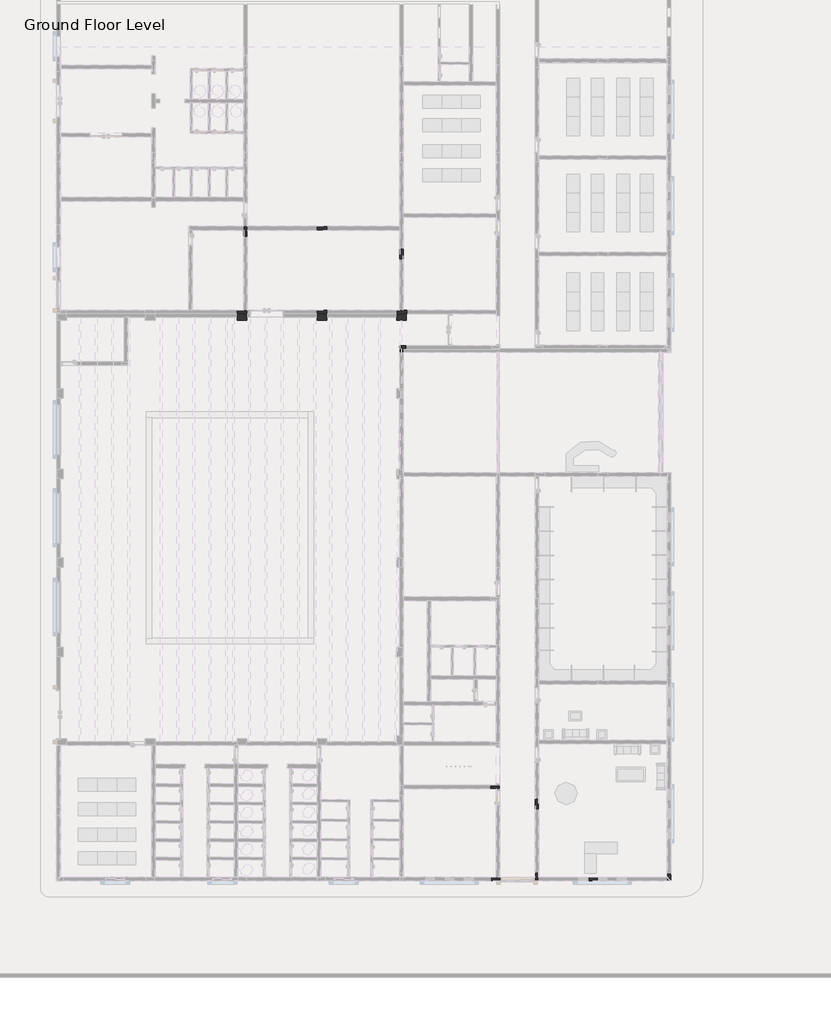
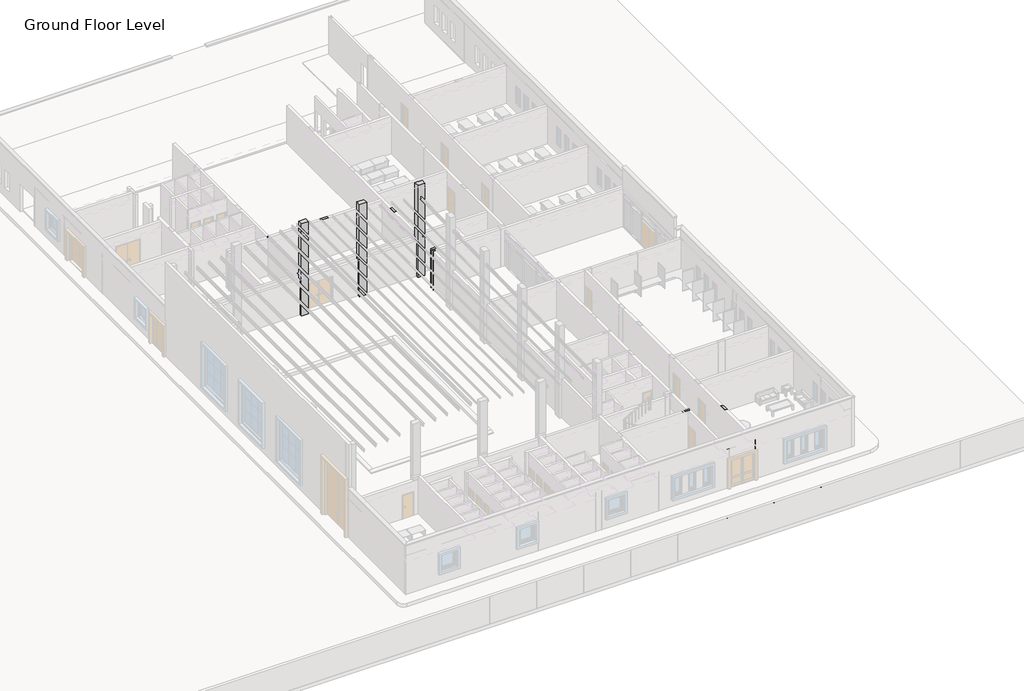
# One storey, part 15 of 23: 27 beams, 21 columns, 13 slabs.
"""IFC4 building model written with IfcOpenShell, lengths in millimetres."""

import ifcopenshell
import ifcopenshell.guid

model = None  # the IFC model being written
_history = None  # IfcOwnerHistory: only IFC2X3 demands one
_inside = {}  # id of a spatial element -> (the spatial element, [elements in it])
_under = {}  # id of a project, library or spatial element -> (it, [spatial elements below it])
_declared = {}  # id of a project -> (the project, [libraries it declares])
_typed = {}  # id of a type object -> (the type object, [elements of that type])
_made_of = {}  # id of a material, layer set ... -> (it, [elements and type objects made of it])


def new_model(schema):
    """Start an empty IFC model of exactly this schema.

    Asked for "IFC4X3", IfcOpenShell would pick the latest addendum, in which some entities
    have other attributes; the version numbers below select the first issue.
    IFC2X3 requires an IfcOwnerHistory on every rooted entity: one is made here for all.
    """
    global model, _history
    if schema == "IFC4X3":
        model = ifcopenshell.file(schema_version=(4, 3, 0, 0))
    else:
        model = ifcopenshell.file(schema=schema)
    _inside.clear()
    _under.clear()
    _declared.clear()
    _typed.clear()
    _made_of.clear()
    _history = None
    if model.schema == "IFC2X3":
        org = make("IfcOrganization", Name="unknown")
        user = make(
            "IfcPersonAndOrganization",
            ThePerson=make("IfcPerson", FamilyName="unknown"),
            TheOrganization=org,
        )
        app = make(
            "IfcApplication",
            ApplicationDeveloper=org,
            Version="unknown",
            ApplicationFullName="unknown",
            ApplicationIdentifier="unknown",
        )
        _history = make(
            "IfcOwnerHistory",
            OwningUser=user,
            OwningApplication=app,
            ChangeAction="ADDED",
            CreationDate=0,
        )
    return model


def make(cls, **values):
    """One entity of the class cls with the attributes given. An attribute that is None is left unset."""
    return model.create_entity(
        cls, **{name: value for name, value in values.items() if value is not None}
    )


def rooted(cls, **values):
    """An entity with a GlobalId (a new one), such as an element, a storey or a relation."""
    return make(cls, GlobalId=ifcopenshell.guid.new(), OwnerHistory=_history, **values)


def si_unit(unit_type, name, prefix=None):
    """IfcSIUnit, for example si_unit("LENGTHUNIT", "METRE", prefix="MILLI")."""
    return make("IfcSIUnit", UnitType=unit_type, Prefix=prefix, Name=name)


def assignment(units):
    """IfcUnitAssignment: the units of a project."""
    return None if units is None else make("IfcUnitAssignment", Units=units)


def point(xyz):
    """IfcCartesianPoint."""
    return None if xyz is None else make("IfcCartesianPoint", Coordinates=xyz)


def direction(xyz):
    """IfcDirection."""
    return None if xyz is None else make("IfcDirection", DirectionRatios=xyz)


def frame(location, z_axis=None, x_axis=None):
    """IfcAxis2Placement3D, a coordinate frame: its origin and axes. An axis left out is left unset."""
    return make(
        "IfcAxis2Placement3D",
        Location=point(location),
        Axis=direction(z_axis),
        RefDirection=direction(x_axis),
    )


def origin():
    """The frame at (0, 0, 0) with its axes left unset."""
    return frame((0.0, 0.0, 0.0))


def place(relative_to, where):
    """IfcLocalPlacement: puts the frame where relative to a parent placement (None: the world)."""
    return make(
        "IfcLocalPlacement", PlacementRelTo=relative_to, RelativePlacement=where
    )


def context(
    kind, dimensions, precision=None, world=None, true_north=None, identifier=None
):
    """IfcGeometricRepresentationContext, for example the 3D "Model" context."""
    return make(
        "IfcGeometricRepresentationContext",
        ContextIdentifier=identifier,
        ContextType=kind,
        CoordinateSpaceDimension=dimensions,
        Precision=precision,
        WorldCoordinateSystem=world,
        TrueNorth=true_north,
    )


def project(units=None, contexts=None):
    """IfcProject with its units and contexts."""
    return rooted(
        "IfcProject",
        Name="project",
        RepresentationContexts=contexts,
        UnitsInContext=assignment(units),
    )


def spatial(cls, under=None, at=None, **own):
    """A site, building, storey or space (cls), placed at a placement, below another one or the project."""
    s = rooted(cls, ObjectPlacement=at, **own)
    if under is not None:
        _under.setdefault(under.id(), (under, []))[1].append(s)
    return s


def polyline(points):
    """IfcPolyline through the points."""
    return make("IfcPolyline", Points=[point(p) for p in points])


def outline(outer, holes=None, kind="AREA"):
    """IfcArbitraryClosedProfileDef: a profile drawn as a closed curve; with holes, ...WithVoids."""
    if holes is None:
        return make("IfcArbitraryClosedProfileDef", ProfileType=kind, OuterCurve=outer)
    return make(
        "IfcArbitraryProfileDefWithVoids",
        ProfileType=kind,
        OuterCurve=outer,
        InnerCurves=holes,
    )


def extrude(swept, where, along, depth):
    """IfcExtrudedAreaSolid: the profile swept, set in the frame where, extruded along a direction by depth."""
    return make(
        "IfcExtrudedAreaSolid",
        SweptArea=swept,
        Position=where,
        ExtrudedDirection=direction(along),
        Depth=depth,
    )


def faces_of(points, faces, orient=None, outer=None):
    """IfcFace entities. A face is a list of loops; a loop is a list of indices into points, from 0.

    orient and outer hold one flag for each loop. By default every Orientation is true, the
    first loop of a face is its IfcFaceOuterBound and the others are IfcFaceBound.
    """
    made = []
    for i, loops in enumerate(faces):
        bounds = []
        for j, loop in enumerate(loops):
            is_outer = j == 0 if outer is None else outer[i][j]
            bounds.append(
                make(
                    "IfcFaceOuterBound" if is_outer else "IfcFaceBound",
                    Bound=make("IfcPolyLoop", Polygon=[points[k] for k in loop]),
                    Orientation=True if orient is None else orient[i][j],
                )
            )
        made.append(make("IfcFace", Bounds=bounds))
    return made


def faceted_brep(points, faces, orient=None, outer=None, voids=None):
    """IfcFacetedBrep: a solid bounded by flat faces; with voids (closed shells), ...WithVoids."""
    shared = [point(p) for p in points]
    hull = make("IfcClosedShell", CfsFaces=faces_of(shared, faces, orient, outer))
    if voids is None:
        return make("IfcFacetedBrep", Outer=hull)
    return make(
        "IfcFacetedBrepWithVoids",
        Outer=hull,
        Voids=[
            make(cls, CfsFaces=faces_of(shared, fs, o, b)) for cls, fs, o, b in voids
        ],
    )


def shape(context_of_items, identifier, shape_type, items):
    """IfcShapeRepresentation: the items that make up one representation, for example the "Body"."""
    return make(
        "IfcShapeRepresentation",
        ContextOfItems=context_of_items,
        RepresentationIdentifier=identifier,
        RepresentationType=shape_type,
        Items=items,
    )


def source(mapping_origin, context_of_items, identifier, shape_type, items):
    """IfcRepresentationMap: a shape defined once, which mapped items show again and again."""
    return make(
        "IfcRepresentationMap",
        MappingOrigin=mapping_origin,
        MappedRepresentation=shape(context_of_items, identifier, shape_type, items),
    )


def transform(
    local_origin,
    x_axis=None,
    y_axis=None,
    z_axis=None,
    scale=None,
    scale2=None,
    scale3=None,
    uniform=True,
):
    """IfcCartesianTransformationOperator3D, or its non-uniform kind. x_axis, y_axis, z_axis: its Axis1, 2, 3."""
    if uniform:
        return make(
            "IfcCartesianTransformationOperator3D",
            Axis1=direction(x_axis),
            Axis2=direction(y_axis),
            LocalOrigin=point(local_origin),
            Scale=scale,
            Axis3=direction(z_axis),
        )
    return make(
        "IfcCartesianTransformationOperator3DnonUniform",
        Axis1=direction(x_axis),
        Axis2=direction(y_axis),
        LocalOrigin=point(local_origin),
        Scale=scale,
        Axis3=direction(z_axis),
        Scale2=scale2,
        Scale3=scale3,
    )


def mapped(mapping_source, mapping_target):
    """IfcMappedItem: shows the shape of a source again, moved by a transform."""
    return make(
        "IfcMappedItem", MappingSource=mapping_source, MappingTarget=mapping_target
    )


def made_of(thing, what):
    """Note that an element or type object is made of a material, layer set ...; save() writes the relation."""
    if what is not None:
        _made_of.setdefault(what.id(), (what, []))[1].append(thing)
    return thing


def element(
    cls,
    number,
    at=None,
    inside=None,
    cuts=None,
    type_object=None,
    material=None,
    context=None,
    identifier="Body",
    shape_type=None,
    held_by="IfcProductDefinitionShape",
    body=None,
    shapes=None,
    **own,
):
    """One element of the class cls, such as IfcWall. Its Tag is "e" and its number.

    at: its placement. inside: the storey or other place that contains it. cuts: it is an
    opening in that element (IfcRelVoidsElement). A single representation is given by context,
    identifier, shape_type and body (its items); several are given by shapes. held_by: the class
    of the entity that holds the representations. save() writes the other relations.
    """
    e = rooted(cls, Tag="e%d" % number, ObjectPlacement=at, **own)
    if body is not None:
        shapes = [shape(context, identifier, shape_type, body)]
    if shapes is not None:
        e.Representation = make(held_by, Representations=shapes)
    if inside is not None:
        _inside.setdefault(inside.id(), (inside, []))[1].append(e)
    if cuts is not None:
        rooted(
            "IfcRelVoidsElement", RelatingBuildingElement=cuts, RelatedOpeningElement=e
        )
    if type_object is not None:
        _typed.setdefault(type_object.id(), (type_object, []))[1].append(e)
    return made_of(e, material)


def aggregate(whole, parts):
    """IfcRelAggregates: a whole, such as a stair, and the parts it consists of."""
    return rooted("IfcRelAggregates", RelatingObject=whole, RelatedObjects=parts)


def save(model, path):
    """Write the relations noted so far, then the file.

    IfcRelAggregates (storeys below a building ...), IfcRelContainedInSpatialStructure (elements
    in a storey), IfcRelDefinesByType, IfcRelAssociatesMaterial and IfcRelDeclares: one each for
    every whole, place, type object, material and project.
    """
    for whole, parts in _under.values():
        aggregate(whole, parts)
    for where, things in _inside.values():
        rooted(
            "IfcRelContainedInSpatialStructure",
            RelatedElements=things,
            RelatingStructure=where,
        )
    for kind, things in _typed.values():
        rooted("IfcRelDefinesByType", RelatedObjects=things, RelatingType=kind)
    for what, things in _made_of.values():
        rooted("IfcRelAssociatesMaterial", RelatedObjects=things, RelatingMaterial=what)
    for by, libraries in _declared.values():
        rooted("IfcRelDeclares", RelatingContext=by, RelatedDefinitions=libraries)
    model.write(path)


def concrete_rectangular_c_9a02abf1(model_context):
    return source(origin(), model_context, "Body", "SweptSolid", [
        extrude(outline(polyline([(100.0, -100.0), (-100.0, -100.0), (-100.0, 100.0), (100.0, 100.0), (100.0, -100.0)])), frame((0.0, 0.0, 600.0), z_axis=(0.0, 0.0, 1.0), x_axis=(1.0, 0.0, 0.0)), (0.0, 0.0, 1.0), 2450.0),
    ])


model = new_model("IFC4")

# Units and contexts
model_context = context("Model", 3, world=origin())
ifc_project = project(units=[si_unit("LENGTHUNIT", "METRE", prefix="MILLI")], contexts=[model_context])

# Site, building, storey
site = spatial("IfcSite", under=ifc_project)
building = spatial("IfcBuilding", under=site)
storey = spatial("IfcBuildingStorey", under=building, Name="Ground Floor Level", Elevation=900.0)

# Beams
placement = place(None, origin())
element("IfcBeam", 1, ObjectType="Concrete - Rectangular Beam : GB1", at=placement, inside=storey, context=model_context, shape_type="Brep", body=[
    faceted_brep([(-767.2327605, -6574.7846466, 500.0), (-767.2327605, -8354.7846466, 500.0), (-767.2327605, -8354.7846466, 600.0), (-767.2327605, -6574.7846466, 600.0), (-567.2327605, -6574.7846466, 500.0), (-567.2327605, -8134.7846466, 500.0), (-747.2327605, -8134.7846466, 500.0), (-747.2327605, -8334.7846466, 500.0), (-567.2327605, -8334.7846466, 500.0), (-567.2327605, -8354.7846466, 500.0), (-567.2327605, -6574.7846466, 600.0), (-567.2327605, -8134.7846466, 600.0), (-567.2327605, -8354.7846466, 600.0), (-567.2327605, -8334.7846466, 600.0), (-747.2327605, -8354.7846466, 600.0), (-747.2327605, -8334.7846466, 600.0), (-747.2327605, -8134.7846466, 600.0)], [[[0, 1, 2, 3]], [[1, 0, 4, 5, 6, 7, 8, 9]], [[4, 10, 11, 5]], [[12, 9, 8, 13]], [[1, 9, 12, 14, 2]], [[4, 0, 3, 10]], [[3, 2, 14, 12, 13, 15, 16, 11, 10]], [[16, 6, 5, 11]], [[7, 15, 13, 8]], [[15, 7, 6, 16]]]),
])
element("IfcBeam", 2, ObjectType="Concrete - Rectangular Beam : GB2", at=placement, inside=storey, context=model_context, shape_type="SweptSolid", body=[
    extrude(outline(polyline([(5452.7672395, -41354.7846466), (5452.7672395, -41154.7846466), (7652.7672395, -41154.7846466), (7652.7672395, -41354.7846466), (5452.7672395, -41354.7846466)])), frame((0.0, 0.0, 300.0), z_axis=(0.0, 0.0, 1.0), x_axis=(1.0, 0.0, 0.0)), (0.0, 0.0, 1.0), 300.0),
])
element("IfcBeam", 3, ObjectType="Concrete - Rectangular Beam : GB2", at=placement, inside=storey, context=model_context, shape_type="SweptSolid", body=[
    extrude(outline(polyline([(5252.7672395, -32954.7846466), (5452.7672395, -32954.7846466), (5452.7672395, -35454.7846466), (5252.7672395, -35454.7846466), (5252.7672395, -32954.7846466)])), frame((0.0, 0.0, 300.0), z_axis=(0.0, 0.0, 1.0), x_axis=(1.0, 0.0, 0.0)), (0.0, 0.0, 1.0), 300.0),
])
element("IfcBeam", 4, ObjectType="Concrete - Rectangular Beam : GB2", at=placement, inside=storey, context=model_context, shape_type="SweptSolid", body=[
    extrude(outline(polyline([(-10497.2327605, -754.7846466), (-10497.2327605, -954.7846466), (-13647.2327605, -954.7846466), (-13647.2327605, -754.7846466), (-10497.2327605, -754.7846466)])), frame((0.0, 0.0, 300.0), z_axis=(0.0, 0.0, 1.0), x_axis=(1.0, 0.0, 0.0)), (0.0, 0.0, 1.0), 300.0),
])
element("IfcBeam", 5, ObjectType="Concrete - Rectangular Beam : GB2", at=placement, inside=storey, context=model_context, shape_type="SweptSolid", body=[
    extrude(outline(polyline([(-5297.2327605, -5954.7846466), (-5497.2327605, -5954.7846466), (-5497.2327605, -954.7846466), (-5297.2327605, -954.7846466), (-5297.2327605, -5954.7846466)])), frame((0.0, 0.0, 300.0), z_axis=(0.0, 0.0, 1.0), x_axis=(1.0, 0.0, 0.0)), (0.0, 0.0, 1.0), 300.0),
])
element("IfcBeam", 6, ObjectType="Concrete - Rectangular Beam : GB2", at=placement, inside=storey, context=model_context, shape_type="Brep", body=[
    faceted_brep([(-527.2327605, -5954.7846466, 300.0), (-527.2327605, -2554.7846466, 300.0), (-527.2327605, -2354.7846466, 300.0), (-527.2327605, -2354.7846466, 600.0), (-527.2327605, -2554.7846466, 600.0), (-527.2327605, -5954.7846466, 600.0), (-547.2327605, -2754.7846466, 300.0), (-547.2327605, -2354.7846466, 300.0), (-727.2327605, -5954.7846466, 300.0), (-727.2327605, -2754.7846466, 300.0), (-727.2327605, -5954.7846466, 600.0), (-727.2327605, -2754.7846466, 600.0), (-547.2327605, -2754.7846466, 600.0), (-547.2327605, -2354.7846466, 600.0)], [[[0, 1, 2, 3, 4, 5]], [[6, 7, 2, 1, 0, 8, 9]], [[9, 8, 10, 11]], [[8, 0, 5, 10]], [[7, 6, 12, 13]], [[6, 9, 11, 12]], [[2, 7, 13, 3]], [[5, 4, 3, 13, 12, 11, 10]]]),
])
element("IfcBeam", 7, ObjectType="Concrete - Rectangular Beam : GB2", at=placement, inside=storey, context=model_context, shape_type="Brep", body=[
    faceted_brep([(-767.2327605, -8554.7846466, 300.0), (-767.2327605, -10804.7846466, 300.0), (-767.2327605, -10804.7846466, 600.0), (-767.2327605, -8554.7846466, 600.0), (-747.2327605, -8554.7846466, 300.0), (-567.2327605, -8554.7846466, 300.0), (-567.2327605, -10804.7846466, 300.0), (-567.2327605, -8554.7846466, 600.0), (-567.2327605, -10804.7846466, 600.0), (-747.2327605, -8554.7846466, 600.0)], [[[0, 1, 2, 3]], [[0, 4, 5, 6, 1]], [[6, 5, 7, 8]], [[5, 4, 0, 3, 9, 7]], [[1, 6, 8, 2]], [[3, 2, 8, 7, 9]]]),
])
element("IfcBeam", 8, ObjectType="Concrete - Rectangular Beam : GB2", at=placement, inside=storey, context=model_context, shape_type="SweptSolid", body=[
    extrude(outline(polyline([(3502.7672395, -32954.7846466), (3702.7672395, -32954.7846466), (3702.7672395, -35454.7846466), (3502.7672395, -35454.7846466), (3502.7672395, -32954.7846466)])), frame((0.0, 0.0, 300.0), z_axis=(0.0, 0.0, 1.0), x_axis=(1.0, 0.0, 0.0)), (0.0, 0.0, 1.0), 300.0),
])
element("IfcBeam", 9, ObjectType="Concrete - Rectangular Beam : GB2", at=placement, inside=storey, context=model_context, shape_type="SweptSolid", body=[
    extrude(outline(polyline([(7652.7672395, -35454.7846466), (7652.7672395, -35654.7846466), (5452.7672395, -35654.7846466), (5452.7672395, -35454.7846466), (7652.7672395, -35454.7846466)])), frame((0.0, 0.0, 300.0), z_axis=(0.0, 0.0, 1.0), x_axis=(1.0, 0.0, 0.0)), (0.0, 0.0, 1.0), 300.0),
])
element("IfcBeam", 10, ObjectType="Concrete - Rectangular Beam : GB3", at=placement, inside=storey, context=model_context, shape_type="SweptSolid", body=[
    extrude(outline(polyline([(11502.7672395, -41154.7846466), (15852.7672395, -41154.7846466), (15852.7672395, -41354.7846466), (11502.7672395, -41354.7846466), (11502.7672395, -41154.7846466)])), frame((0.0, 0.0, 300.0), z_axis=(0.0, 0.0, 1.0), x_axis=(1.0, 0.0, 0.0)), (0.0, 0.0, 1.0), 300.0),
])
element("IfcBeam", 11, ObjectType="Concrete - Rectangular Beam : GB3", at=placement, inside=storey, context=model_context, shape_type="SweptSolid", body=[
    extrude(outline(polyline([(7852.7672395, -41354.7846466), (7852.7672395, -41154.7846466), (11002.7672395, -41154.7846466), (11002.7672395, -41354.7846466), (7852.7672395, -41354.7846466)])), frame((0.0, 0.0, 300.0), z_axis=(0.0, 0.0, 1.0), x_axis=(1.0, 0.0, 0.0)), (0.0, 0.0, 1.0), 300.0),
])
element("IfcBeam", 12, ObjectType="Concrete - Rectangular Beam : GB3", at=placement, inside=storey, context=model_context, shape_type="SweptSolid", body=[
    extrude(outline(polyline([(7852.7672395, -40854.7846466), (7652.7672395, -40854.7846466), (7652.7672395, -36904.7846466), (7852.7672395, -36904.7846466), (7852.7672395, -40854.7846466)])), frame((0.0, 0.0, 300.0), z_axis=(0.0, 0.0, 1.0), x_axis=(1.0, 0.0, 0.0)), (0.0, 0.0, 1.0), 300.0),
])
element("IfcBeam", 13, ObjectType="Concrete - Rectangular Beam : GB3", at=placement, inside=storey, context=model_context, shape_type="Brep", body=[
    faceted_brep([(7852.7672395, -36304.7846466, 300.0), (7852.7672395, -33054.7846466, 300.0), (7852.7672395, -33054.7846466, 600.0), (7852.7672395, -36304.7846466, 600.0), (7652.7672395, -33054.7846466, 300.0), (7652.7672395, -36304.7846466, 300.0), (7652.7672395, -35654.7846466, 300.0), (7652.7672395, -35454.7846466, 300.0), (7652.7672395, -36304.7846466, 600.0), (7652.7672395, -35654.7846466, 600.0), (7652.7672395, -35454.7846466, 600.0), (7652.7672395, -33054.7846466, 600.0)], [[[0, 1, 2, 3]], [[4, 1, 0, 5, 6, 7]], [[4, 7, 6, 5, 8, 9, 10, 11]], [[1, 4, 11, 2]], [[5, 0, 3, 8]], [[3, 2, 11, 10, 9, 8]]]),
])
element("IfcBeam", 14, ObjectType="Concrete - Rectangular Beam : GB3", at=placement, inside=storey, context=model_context, shape_type="SweptSolid", body=[
    extrude(outline(polyline([(-10197.2327605, -954.7846466), (-10197.2327605, -754.7846466), (-5897.2327605, -754.7846466), (-5897.2327605, -954.7846466), (-10197.2327605, -954.7846466)])), frame((0.0, 0.0, 300.0), z_axis=(0.0, 0.0, 1.0), x_axis=(1.0, 0.0, 0.0)), (0.0, 0.0, 1.0), 300.0),
])
element("IfcBeam", 15, ObjectType="Concrete - Rectangular Beam : GB3", at=placement, inside=storey, context=model_context, shape_type="SweptSolid", body=[
    extrude(outline(polyline([(-747.2327605, -754.7846466), (-747.2327605, -954.7846466), (-5297.2327605, -954.7846466), (-5297.2327605, -754.7846466), (-747.2327605, -754.7846466)])), frame((0.0, 0.0, 300.0), z_axis=(0.0, 0.0, 1.0), x_axis=(1.0, 0.0, 0.0)), (0.0, 0.0, 1.0), 300.0),
])
element("IfcBeam", 16, ObjectType="Concrete - Rectangular Beam : GB3", at=placement, inside=storey, context=model_context, shape_type="SweptSolid", body=[
    extrude(outline(polyline([(-5897.2327605, -6154.7846466), (-10247.2327605, -6154.7846466), (-10247.2327605, -5954.7846466), (-5897.2327605, -5954.7846466), (-5897.2327605, -6154.7846466)])), frame((0.0, 0.0, 300.0), z_axis=(0.0, 0.0, 1.0), x_axis=(1.0, 0.0, 0.0)), (0.0, 0.0, 1.0), 300.0),
])
element("IfcBeam", 17, ObjectType="Concrete - Rectangular Beam : GB3", at=placement, inside=storey, context=model_context, shape_type="SweptSolid", body=[
    extrude(outline(polyline([(-927.2327605, -5954.7846466), (-927.2327605, -6154.7846466), (-5297.2327605, -6154.7846466), (-5297.2327605, -5954.7846466), (-927.2327605, -5954.7846466)])), frame((0.0, 0.0, 300.0), z_axis=(0.0, 0.0, 1.0), x_axis=(1.0, 0.0, 0.0)), (0.0, 0.0, 1.0), 300.0),
])
element("IfcBeam", 18, ObjectType="Concrete - Rectangular Beam : GB3", at=placement, inside=storey, context=model_context, shape_type="SweptSolid", body=[
    extrude(outline(polyline([(-15947.2327605, -6204.7846466), (-10847.2327605, -6204.7846466), (-10847.2327605, -6374.7846466), (-15947.2327605, -6374.7846466), (-15947.2327605, -6204.7846466)])), frame((0.0, 0.0, 300.0), z_axis=(0.0, 0.0, 1.0), x_axis=(1.0, 0.0, 0.0)), (0.0, 0.0, 1.0), 300.0),
])
element("IfcBeam", 19, ObjectType="Concrete - Rectangular Beam : GB3", at=placement, inside=storey, context=model_context, shape_type="SweptSolid", body=[
    extrude(outline(polyline([(-10247.2327605, -6374.7846466), (-10247.2327605, -6174.7846466), (-5897.2327605, -6174.7846466), (-5897.2327605, -6374.7846466), (-10247.2327605, -6374.7846466)])), frame((0.0, 0.0, 300.0), z_axis=(0.0, 0.0, 1.0), x_axis=(1.0, 0.0, 0.0)), (0.0, 0.0, 1.0), 300.0),
])
element("IfcBeam", 20, ObjectType="Concrete - Rectangular Beam : GB3", at=placement, inside=storey, context=model_context, shape_type="SweptSolid", body=[
    extrude(outline(polyline([(-5297.2327605, -6374.7846466), (-5297.2327605, -6174.7846466), (-947.2327605, -6174.7846466), (-947.2327605, -6374.7846466), (-5297.2327605, -6374.7846466)])), frame((0.0, 0.0, 300.0), z_axis=(0.0, 0.0, 1.0), x_axis=(1.0, 0.0, 0.0)), (0.0, 0.0, 1.0), 300.0),
])
element("IfcBeam", 21, ObjectType="Concrete - Rectangular Beam : GB4", at=placement, inside=storey, context=model_context, shape_type="SweptSolid", body=[
    extrude(outline(polyline([(4952.7672395, -41354.7846466), (-547.2327605, -41354.7846466), (-547.2327605, -41154.7846466), (4952.7672395, -41154.7846466), (4952.7672395, -41354.7846466)])), frame((0.0, 0.0, 300.0), z_axis=(0.0, 0.0, 1.0), x_axis=(1.0, 0.0, 0.0)), (0.0, 0.0, 1.0), 300.0),
])
element("IfcBeam", 22, ObjectType="Concrete - Rectangular Beam : GB4", at=placement, inside=storey, context=model_context, shape_type="SweptSolid", body=[
    extrude(outline(polyline([(5252.7672395, -35654.7846466), (5452.7672395, -35654.7846466), (5452.7672395, -41154.7846466), (5252.7672395, -41154.7846466), (5252.7672395, -35654.7846466)])), frame((0.0, 0.0, 300.0), z_axis=(0.0, 0.0, 1.0), x_axis=(1.0, 0.0, 0.0)), (0.0, 0.0, 1.0), 300.0),
])
element("IfcBeam", 23, ObjectType="Concrete - Rectangular Beam : GB4", at=placement, inside=storey, context=model_context, shape_type="SweptSolid", body=[
    extrude(outline(polyline([(-10447.2327605, -1354.7846466), (-10247.2327605, -1354.7846466), (-10247.2327605, -5904.7846466), (-10447.2327605, -5904.7846466), (-10447.2327605, -1354.7846466)])), frame((0.0, 0.0, 300.0), z_axis=(0.0, 0.0, 1.0), x_axis=(1.0, 0.0, 0.0)), (0.0, 0.0, 1.0), 300.0),
])
element("IfcBeam", 24, ObjectType="Concrete - Rectangular Beam : GB5", at=placement, inside=storey, context=model_context, shape_type="Brep", body=[
    faceted_brep([(-13647.2327605, -5904.7846466, 300.0), (-13647.2327605, -954.7846466, 300.0), (-13647.2327605, -754.7846466, 300.0), (-13647.2327605, 795.2153534, 300.0), (-13647.2327605, 795.2153534, 600.0), (-13647.2327605, -754.7846466, 600.0), (-13647.2327605, -954.7846466, 600.0), (-13647.2327605, -5904.7846466, 600.0), (-13847.2327605, 795.2153534, 300.0), (-13847.2327605, -5904.7846466, 300.0), (-13847.2327605, -5904.7846466, 600.0), (-13847.2327605, 795.2153534, 600.0)], [[[0, 1, 2, 3, 4, 5, 6, 7]], [[8, 3, 2, 1, 0, 9]], [[8, 9, 10, 11]], [[3, 8, 11, 4]], [[9, 0, 7, 10]], [[7, 6, 5, 4, 11, 10]]]),
])
element("IfcBeam", 25, ObjectType="Concrete - Rectangular Beam : GB5", at=placement, inside=storey, context=model_context, shape_type="Brep", body=[
    faceted_brep([(-547.2327605, -32954.7846466, 300.0), (3502.7672395, -32954.7846466, 300.0), (3702.7672395, -32954.7846466, 300.0), (4852.7672395, -32954.7846466, 300.0), (4852.7672395, -32954.7846466, 600.0), (3702.7672395, -32954.7846466, 600.0), (3502.7672395, -32954.7846466, 600.0), (-547.2327605, -32954.7846466, 600.0), (-547.2327605, -32754.7846466, 300.0), (1152.7672395, -32754.7846466, 300.0), (1352.7672395, -32754.7846466, 300.0), (4852.7672395, -32754.7846466, 300.0), (-547.2327605, -32754.7846466, 600.0), (1152.7672395, -32754.7846466, 600.0), (1352.7672395, -32754.7846466, 600.0), (4852.7672395, -32754.7846466, 600.0)], [[[0, 1, 2, 3, 4, 5, 6, 7]], [[0, 8, 9, 10, 11, 3, 2, 1]], [[11, 10, 9, 8, 12, 13, 14, 15]], [[8, 0, 7, 12]], [[3, 11, 15, 4]], [[7, 6, 5, 4, 15, 14, 13, 12]]]),
])
element("IfcBeam", 26, ObjectType="Concrete - Rectangular Beam : GB5", at=placement, inside=storey, context=model_context, shape_type="Brep", body=[
    faceted_brep([(-547.2327605, -35654.7846466, 300.0), (4852.7672395, -35654.7846466, 300.0), (4852.7672395, -35654.7846466, 600.0), (-547.2327605, -35654.7846466, 600.0), (-547.2327605, -35454.7846466, 300.0), (3502.7672395, -35454.7846466, 300.0), (3702.7672395, -35454.7846466, 300.0), (4852.7672395, -35454.7846466, 300.0), (-547.2327605, -35454.7846466, 600.0), (3502.7672395, -35454.7846466, 600.0), (3702.7672395, -35454.7846466, 600.0), (4852.7672395, -35454.7846466, 600.0)], [[[0, 1, 2, 3]], [[0, 4, 5, 6, 7, 1]], [[7, 6, 5, 4, 8, 9, 10, 11]], [[4, 0, 3, 8]], [[1, 7, 11, 2]], [[3, 2, 11, 10, 9, 8]]]),
])
element("IfcBeam", 27, ObjectType="Concrete - Rectangular Beam : GB6", at=placement, inside=storey, context=model_context, shape_type="Brep", body=[
    faceted_brep([(-16147.2327605, -6204.7846466, 300.0), (-15947.2327605, -6204.7846466, 300.0), (-10847.2327605, -6204.7846466, 300.0), (-10247.2327605, -6204.7846466, 300.0), (-10247.2327605, -6204.7846466, 600.0), (-10847.2327605, -6204.7846466, 600.0), (-15947.2327605, -6204.7846466, 600.0), (-16147.2327605, -6204.7846466, 600.0), (-10847.2327605, -6154.7846466, 300.0), (-10247.2327605, -6154.7846466, 300.0), (-16147.2327605, -6154.7846466, 300.0), (-15947.2327605, -6154.7846466, 300.0), (-15947.2327605, -5954.7846466, 300.0), (-16147.2327605, -5954.7846466, 300.0), (-16147.2327605, -5904.7846466, 300.0), (-15947.2327605, -5904.7846466, 300.0), (-13847.2327605, -5904.7846466, 300.0), (-13647.2327605, -5904.7846466, 300.0), (-10447.2327605, -5904.7846466, 300.0), (-10247.2327605, -5904.7846466, 300.0), (-10247.2327605, -5954.7846466, 300.0), (-10847.2327605, -5954.7846466, 300.0), (-16147.2327605, -5904.7846466, 600.0), (-15947.2327605, -5904.7846466, 600.0), (-13847.2327605, -5904.7846466, 600.0), (-13647.2327605, -5904.7846466, 600.0), (-10447.2327605, -5904.7846466, 600.0), (-10247.2327605, -5904.7846466, 600.0), (-10847.2327605, -6154.7846466, 600.0), (-10247.2327605, -6154.7846466, 600.0), (-10847.2327605, -5954.7846466, 600.0), (-10247.2327605, -5954.7846466, 600.0), (-16147.2327605, -6154.7846466, 600.0), (-15947.2327605, -6154.7846466, 600.0), (-15947.2327605, -5954.7846466, 600.0), (-16147.2327605, -5954.7846466, 600.0)], [[[0, 1, 2, 3, 4, 5, 6, 7]], [[8, 9, 3, 2, 1, 0, 10, 11, 12, 13, 14, 15, 16, 17, 18, 19, 20, 21]], [[19, 18, 17, 16, 15, 14, 22, 23, 24, 25, 26, 27]], [[9, 8, 28, 29]], [[8, 21, 30, 28]], [[21, 20, 31, 30]], [[11, 10, 32, 33]], [[13, 12, 34, 35]], [[12, 11, 33, 34]], [[3, 9, 29, 4]], [[14, 13, 35, 22]], [[20, 19, 27, 31]], [[10, 0, 7, 32]], [[7, 6, 5, 4, 29, 28, 30, 31, 27, 26, 25, 24, 23, 22, 35, 34, 33, 32]]]),
])

# Columns
concrete_rectangular_c_shape = concrete_rectangular_c_9a02abf1(model_context)
element("IfcColumn", 28, ObjectType="Concrete Rectangular : C", at=placement, inside=storey, context=model_context, shape_type="MappedRepresentation", body=[
    mapped(concrete_rectangular_c_shape, transform((13716.0532888, -47254.7846466, 0.0), x_axis=(-1.0, 0.0, 0.0), y_axis=(0.0, -1.0, 0.0), z_axis=(0.0, 0.0, 1.0))),
])
element("IfcColumn", 29, ObjectType="Concrete Rectangular : C", at=placement, inside=storey, context=model_context, shape_type="MappedRepresentation", body=[
    mapped(concrete_rectangular_c_shape, transform((9716.0532888, -47254.7846466, 0.0), x_axis=(-1.0, 0.0, 0.0), y_axis=(0.0, -1.0, 0.0), z_axis=(0.0, 0.0, 1.0))),
])
element("IfcColumn", 30, ObjectType="Concrete Rectangular : C", at=placement, inside=storey, context=model_context, shape_type="MappedRepresentation", body=[
    mapped(concrete_rectangular_c_shape, transform((5716.0532888, -47254.7846466, 0.0), x_axis=(-1.0, 0.0, 0.0), y_axis=(0.0, -1.0, 0.0), z_axis=(0.0, 0.0, 1.0))),
])
element("IfcColumn", 31, ObjectType="Concrete Rectangular : C", at=placement, inside=storey, context=model_context, shape_type="MappedRepresentation", body=[
    mapped(concrete_rectangular_c_shape, transform((1716.0532888, -47254.7846466, 0.0), x_axis=(-1.0, 0.0, 0.0), y_axis=(0.0, -1.0, 0.0), z_axis=(0.0, 0.0, 1.0))),
])
element("IfcColumn", 32, ObjectType="Concrete Rectangular : C1", at=placement, inside=storey, context=model_context, shape_type="Brep", body=[
    faceted_brep([(-747.2327605, -8354.7846466, -300.0), (-347.2327605, -8354.7846466, -300.0), (-347.2327605, -8554.7846466, -300.0), (-747.2327605, -8554.7846466, -300.0), (-347.2327605, -8354.7846466, 600.0), (-567.2327605, -8354.7846466, 600.0), (-747.2327605, -8354.7846466, 600.0), (-747.2327605, -8554.7846466, 600.0), (-567.2327605, -8554.7846466, 600.0), (-347.2327605, -8554.7846466, 600.0), (-747.2327605, -8354.7846466, 300.0), (-347.2327605, -8354.7846466, 300.0), (-347.2327605, -8554.7846466, 300.0), (-747.2327605, -8554.7846466, 300.0)], [[[0, 1, 2, 3]], [[4, 5, 6, 7, 8, 9]], [[1, 0, 10, 6, 5, 4, 11]], [[2, 1, 11, 4, 9, 12]], [[3, 2, 12, 9, 8, 7, 13]], [[0, 3, 13, 7, 6, 10]]]),
    faceted_brep([(-747.2327605, -8354.7846466, 4400.0), (-547.2327605, -8354.7846466, 4400.0), (-537.2327605, -8354.7846466, 4400.0), (-347.2327605, -8354.7846466, 4400.0), (-347.2327605, -8354.7846466, 900.0), (-537.2327605, -8354.7846466, 900.0), (-747.2327605, -8354.7846466, 900.0), (-747.2327605, -8354.7846466, 910.0), (-347.2327605, -8554.7846466, 4400.0), (-347.2327605, -8554.7846466, 900.0), (-537.2327605, -8554.7846466, 4400.0), (-547.2327605, -8554.7846466, 4400.0), (-747.2327605, -8554.7846466, 4400.0), (-747.2327605, -8554.7846466, 910.0), (-747.2327605, -8554.7846466, 900.0), (-547.2327605, -8554.7846466, 900.0)], [[[0, 1, 2, 3, 4, 5, 6, 7]], [[3, 8, 9, 4]], [[8, 10, 11, 12, 13, 14, 15, 9]], [[12, 0, 7, 6, 14, 13]], [[3, 2, 1, 0, 12, 11, 10, 8]], [[6, 5, 4, 9, 15, 14]]]),
])
element("IfcColumn", 33, ObjectType="Concrete Rectangular : C1", at=placement, inside=storey, context=model_context, shape_type="Brep", body=[
    faceted_brep([(16052.7672395, -40954.7846466, -300.0), (16052.7672395, -41354.7846466, -300.0), (15852.7672395, -41354.7846466, -300.0), (15852.7672395, -40954.7846466, -300.0), (16052.7672395, -40954.7846466, 4400.0), (16052.7672395, -41354.7846466, 4400.0), (16052.7672395, -41354.7846466, 900.0), (16052.7672395, -40954.7846466, 900.0), (15852.7672395, -41354.7846466, 4400.0), (15852.7672395, -41354.7846466, 900.0), (15852.7672395, -40954.7846466, 4400.0), (15852.7672395, -40954.7846466, 1000.0)], [[[0, 1, 2, 3]], [[4, 5, 6, 1, 0, 7]], [[5, 8, 9, 2, 1, 6]], [[8, 10, 11, 3, 2, 9]], [[10, 4, 7, 0, 3, 11]], [[4, 10, 8, 5]]]),
])
element("IfcColumn", 34, ObjectType="Concrete Rectangular : C1", at=placement, inside=storey, context=model_context, shape_type="Brep", body=[
    faceted_brep([(-747.2327605, -8134.7846466, -300.0), (-347.2327605, -8134.7846466, -300.0), (-347.2327605, -8334.7846466, -300.0), (-747.2327605, -8334.7846466, -300.0), (-347.2327605, -8134.7846466, 600.0), (-567.2327605, -8134.7846466, 600.0), (-747.2327605, -8134.7846466, 600.0), (-747.2327605, -8334.7846466, 600.0), (-567.2327605, -8334.7846466, 600.0), (-347.2327605, -8334.7846466, 600.0), (-747.2327605, -8134.7846466, 500.0), (-747.2327605, -8334.7846466, 500.0)], [[[0, 1, 2, 3]], [[4, 5, 6, 7, 8, 9]], [[1, 0, 10, 6, 5, 4]], [[2, 1, 4, 9]], [[3, 2, 9, 8, 7, 11]], [[0, 3, 11, 7, 6, 10]]]),
    faceted_brep([(-747.2327605, -8134.7846466, 4400.0), (-347.2327605, -8134.7846466, 4400.0), (-347.2327605, -8134.7846466, 910.0), (-347.2327605, -8134.7846466, 900.0), (-747.2327605, -8134.7846466, 900.0), (-347.2327605, -8334.7846466, 4400.0), (-347.2327605, -8334.7846466, 900.0), (-347.2327605, -8144.7846466, 900.0), (-537.2327605, -8334.7846466, 4400.0), (-747.2327605, -8334.7846466, 4400.0), (-747.2327605, -8334.7846466, 900.0), (-537.2327605, -8334.7846466, 900.0)], [[[0, 1, 2, 3, 4]], [[1, 5, 6, 7, 3, 2]], [[5, 8, 9, 10, 11, 6]], [[9, 0, 4, 10]], [[1, 0, 9, 8, 5]], [[4, 3, 7, 6, 11, 10]]]),
])
element("IfcColumn", 35, ObjectType="Concrete Rectangular : C2", at=placement, inside=storey, context=model_context, shape_type="Brep", body=[
    faceted_brep([(4952.7672395, -41154.7846466, -300.0), (5452.7672395, -41154.7846466, -300.0), (5452.7672395, -41354.7846466, -300.0), (4952.7672395, -41354.7846466, -300.0), (4952.7672395, -41154.7846466, 4400.0), (5452.7672395, -41154.7846466, 4400.0), (5452.7672395, -41154.7846466, 1000.0), (5452.7672395, -41154.7846466, 900.0), (4952.7672395, -41154.7846466, 900.0), (4952.7672395, -41154.7846466, 1000.0), (5452.7672395, -41354.7846466, 4400.0), (5452.7672395, -41354.7846466, 900.0), (4952.7672395, -41354.7846466, 4400.0), (4952.7672395, -41354.7846466, 900.0)], [[[0, 1, 2, 3]], [[4, 5, 6, 7, 1, 0, 8, 9]], [[5, 10, 11, 2, 1, 7, 6]], [[10, 12, 13, 3, 2, 11]], [[12, 4, 9, 8, 0, 3, 13]], [[4, 12, 10, 5]]]),
])
element("IfcColumn", 36, ObjectType="Concrete Rectangular : C2", at=placement, inside=storey, context=model_context, shape_type="Brep", body=[
    faceted_brep([(7652.7672395, -41354.7846466, -300.0), (7652.7672395, -40854.7846466, -300.0), (7852.7672395, -40854.7846466, -300.0), (7852.7672395, -41354.7846466, -300.0), (7652.7672395, -41354.7846466, 4400.0), (7652.7672395, -41144.7846466, 4400.0), (7652.7672395, -40854.7846466, 4400.0), (7652.7672395, -40854.7846466, 1000.0), (7652.7672395, -40854.7846466, 900.0), (7652.7672395, -41354.7846466, 900.0), (7852.7672395, -40854.7846466, 4400.0), (7852.7672395, -40854.7846466, 1000.0), (7852.7672395, -40854.7846466, 900.0), (7852.7672395, -41144.7846466, 4400.0), (7852.7672395, -41354.7846466, 4400.0), (7852.7672395, -41354.7846466, 900.0)], [[[0, 1, 2, 3]], [[4, 5, 6, 7, 8, 1, 0, 9]], [[6, 10, 11, 12, 2, 1, 8, 7]], [[10, 13, 14, 15, 3, 2, 12, 11]], [[14, 4, 9, 0, 3, 15]], [[4, 14, 13, 10, 6, 5]]]),
])
element("IfcColumn", 37, ObjectType="Concrete Rectangular : C2", at=placement, inside=storey, context=model_context, shape_type="Brep", body=[
    faceted_brep([(11502.7672395, -41354.7846466, -300.0), (11002.7672395, -41354.7846466, -300.0), (11002.7672395, -41154.7846466, -300.0), (11502.7672395, -41154.7846466, -300.0), (11502.7672395, -41354.7846466, 4400.0), (11002.7672395, -41354.7846466, 4400.0), (11002.7672395, -41354.7846466, 900.0), (11502.7672395, -41354.7846466, 900.0), (11002.7672395, -41154.7846466, 4400.0), (11002.7672395, -41154.7846466, 1000.0), (11002.7672395, -41154.7846466, 900.0), (11502.7672395, -41154.7846466, 4400.0), (11502.7672395, -41154.7846466, 1000.0), (11502.7672395, -41154.7846466, 900.0)], [[[0, 1, 2, 3]], [[4, 5, 6, 1, 0, 7]], [[5, 8, 9, 10, 2, 1, 6]], [[8, 11, 12, 13, 3, 2, 10, 9]], [[11, 4, 7, 0, 3, 13, 12]], [[4, 11, 8, 5]]]),
])
element("IfcColumn", 38, ObjectType="Concrete Rectangular : C3", at=placement, inside=storey, context=model_context, shape_type="Brep", body=[
    faceted_brep([(-10447.2327605, -1354.7846466, -300.0), (-10447.2327605, -754.7846466, -300.0), (-10247.2327605, -754.7846466, -300.0), (-10247.2327605, -1354.7846466, -300.0), (-10447.2327605, -1354.7846466, 4400.0), (-10447.2327605, -754.7846466, 4400.0), (-10447.2327605, -754.7846466, 900.0), (-10447.2327605, -1354.7846466, 900.0), (-10447.2327605, -1354.7846466, 1000.0), (-10247.2327605, -754.7846466, 4400.0), (-10247.2327605, -754.7846466, 1000.0), (-10247.2327605, -754.7846466, 900.0), (-10247.2327605, -1354.7846466, 4400.0), (-10247.2327605, -1354.7846466, 910.0), (-10247.2327605, -1354.7846466, 900.0)], [[[0, 1, 2, 3]], [[4, 5, 6, 1, 0, 7, 8]], [[5, 9, 10, 11, 2, 1, 6]], [[9, 12, 13, 14, 3, 2, 11, 10]], [[12, 4, 8, 7, 0, 3, 14, 13]], [[4, 12, 9, 5]]]),
])
element("IfcColumn", 39, ObjectType="Concrete Rectangular : C3", at=placement, inside=storey, context=model_context, shape_type="Brep", body=[
    faceted_brep([(-5297.2327605, -954.7846466, -300.0), (-5897.2327605, -954.7846466, -300.0), (-5897.2327605, -754.7846466, -300.0), (-5297.2327605, -754.7846466, -300.0), (-5297.2327605, -954.7846466, 4400.0), (-5897.2327605, -954.7846466, 4400.0), (-5897.2327605, -954.7846466, 910.0), (-5897.2327605, -954.7846466, 900.0), (-5297.2327605, -954.7846466, 900.0), (-5297.2327605, -954.7846466, 910.0), (-5897.2327605, -754.7846466, 4400.0), (-5897.2327605, -754.7846466, 1000.0), (-5897.2327605, -754.7846466, 900.0), (-5297.2327605, -754.7846466, 4400.0), (-5297.2327605, -754.7846466, 1000.0), (-5297.2327605, -754.7846466, 900.0)], [[[0, 1, 2, 3]], [[4, 5, 6, 7, 1, 0, 8, 9]], [[5, 10, 11, 12, 2, 1, 7, 6]], [[10, 13, 14, 15, 3, 2, 12, 11]], [[13, 4, 9, 8, 0, 3, 15, 14]], [[4, 13, 10, 5]]]),
])
element("IfcColumn", 40, ObjectType="Concrete Rectangular : C3", at=placement, inside=storey, context=model_context, shape_type="Brep", body=[
    faceted_brep([(-747.2327605, -2754.7846466, -300.0), (-747.2327605, -2154.7846466, -300.0), (-547.2327605, -2154.7846466, -300.0), (-547.2327605, -2754.7846466, -300.0), (-747.2327605, -2154.7846466, 600.0), (-747.2327605, -2754.7846466, 600.0), (-727.2327605, -2754.7846466, 600.0), (-547.2327605, -2754.7846466, 600.0), (-547.2327605, -2354.7846466, 600.0), (-547.2327605, -2154.7846466, 600.0), (-747.2327605, -2154.7846466, 300.0), (-547.2327605, -2154.7846466, 300.0), (-547.2327605, -2754.7846466, 300.0)], [[[0, 1, 2, 3]], [[4, 5, 6, 7, 8, 9]], [[1, 0, 5, 4, 10]], [[2, 1, 10, 4, 9, 11]], [[3, 2, 11, 9, 8, 7, 12]], [[0, 3, 12, 7, 6, 5]]]),
    faceted_brep([(-747.2327605, -2754.7846466, 4400.0), (-747.2327605, -2154.7846466, 4400.0), (-747.2327605, -2154.7846466, 910.0), (-747.2327605, -2154.7846466, 900.0), (-747.2327605, -2754.7846466, 900.0), (-747.2327605, -2754.7846466, 910.0), (-547.2327605, -2154.7846466, 4400.0), (-547.2327605, -2154.7846466, 1000.0), (-547.2327605, -2154.7846466, 900.0), (-547.2327605, -2754.7846466, 4400.0), (-547.2327605, -2754.7846466, 1000.0), (-547.2327605, -2754.7846466, 900.0)], [[[0, 1, 2, 3, 4, 5]], [[1, 6, 7, 8, 3, 2]], [[6, 9, 10, 11, 8, 7]], [[9, 0, 5, 4, 11, 10]], [[1, 0, 9, 6]], [[4, 3, 8, 11]]]),
])
element("IfcColumn", 41, ObjectType="Concrete Rectangular : C3", at=placement, inside=storey, context=model_context, shape_type="Brep", body=[
    faceted_brep([(-327.2327605, -6154.7846466, -300.0), (-927.2327605, -6154.7846466, -300.0), (-927.2327605, -5954.7846466, -300.0), (-327.2327605, -5954.7846466, -300.0), (-327.2327605, -6154.7846466, 4400.0), (-537.2327605, -6154.7846466, 4400.0), (-547.2327605, -6154.7846466, 4400.0), (-747.2327605, -6154.7846466, 4400.0), (-927.2327605, -6154.7846466, 4400.0), (-927.2327605, -6154.7846466, 4100.0), (-927.2327605, -6154.7846466, 900.0), (-327.2327605, -6154.7846466, 900.0), (-327.2327605, -6154.7846466, 910.0), (-927.2327605, -5954.7846466, 4400.0), (-927.2327605, -5954.7846466, 4100.0), (-927.2327605, -5954.7846466, 910.0), (-927.2327605, -5954.7846466, 900.0), (-747.2327605, -5954.7846466, 4400.0), (-537.2327605, -5954.7846466, 4400.0), (-327.2327605, -5954.7846466, 4400.0), (-327.2327605, -5954.7846466, 1000.0), (-327.2327605, -5954.7846466, 900.0)], [[[0, 1, 2, 3]], [[4, 5, 6, 7, 8, 9, 10, 1, 0, 11, 12]], [[8, 13, 14, 15, 16, 2, 1, 10, 9]], [[13, 17, 18, 19, 20, 21, 3, 2, 16, 15, 14]], [[19, 4, 12, 11, 0, 3, 21, 20]], [[4, 19, 18, 17, 13, 8, 7, 6, 5]]]),
])
element("IfcColumn", 42, ObjectType="Concrete Rectangular : C3", at=placement, inside=storey, context=model_context, shape_type="Brep", body=[
    faceted_brep([(-5297.2327605, -6154.7846466, -300.0), (-5897.2327605, -6154.7846466, -300.0), (-5897.2327605, -5954.7846466, -300.0), (-5297.2327605, -5954.7846466, -300.0), (-5297.2327605, -6154.7846466, 4400.0), (-5897.2327605, -6154.7846466, 4400.0), (-5897.2327605, -6154.7846466, 4100.0), (-5897.2327605, -6154.7846466, 900.0), (-5297.2327605, -6154.7846466, 900.0), (-5297.2327605, -6154.7846466, 4100.0), (-5897.2327605, -5954.7846466, 4400.0), (-5897.2327605, -5954.7846466, 4100.0), (-5897.2327605, -5954.7846466, 910.0), (-5897.2327605, -5954.7846466, 900.0), (-5297.2327605, -5954.7846466, 4400.0), (-5297.2327605, -5954.7846466, 4100.0), (-5297.2327605, -5954.7846466, 910.0), (-5297.2327605, -5954.7846466, 900.0)], [[[0, 1, 2, 3]], [[4, 5, 6, 7, 1, 0, 8, 9]], [[5, 10, 11, 12, 13, 2, 1, 7, 6]], [[10, 14, 15, 16, 17, 3, 2, 13, 12, 11]], [[14, 4, 9, 8, 0, 3, 17, 16, 15]], [[4, 14, 10, 5]]]),
])
element("IfcColumn", 43, ObjectType="Concrete Rectangular : C3", at=placement, inside=storey, context=model_context, shape_type="Brep", body=[
    faceted_brep([(-10247.2327605, -6154.7846466, -300.0), (-10847.2327605, -6154.7846466, -300.0), (-10847.2327605, -5954.7846466, -300.0), (-10247.2327605, -5954.7846466, -300.0), (-10847.2327605, -6154.7846466, 600.0), (-10247.2327605, -6154.7846466, 600.0), (-10247.2327605, -5954.7846466, 600.0), (-10847.2327605, -5954.7846466, 600.0), (-10247.2327605, -6154.7846466, 300.0), (-10847.2327605, -6154.7846466, 300.0), (-10847.2327605, -5954.7846466, 300.0), (-10247.2327605, -5954.7846466, 300.0)], [[[0, 1, 2, 3]], [[4, 5, 6, 7]], [[1, 0, 8, 5, 4, 9]], [[2, 1, 9, 4, 7, 10]], [[3, 2, 10, 7, 6, 11]], [[0, 3, 11, 6, 5, 8]]]),
    faceted_brep([(-10247.2327605, -6154.7846466, 4400.0), (-10847.2327605, -6154.7846466, 4400.0), (-10847.2327605, -6154.7846466, 4100.0), (-10847.2327605, -6154.7846466, 900.0), (-10247.2327605, -6154.7846466, 900.0), (-10247.2327605, -6154.7846466, 4100.0), (-10847.2327605, -5954.7846466, 4400.0), (-10847.2327605, -5954.7846466, 4100.0), (-10847.2327605, -5954.7846466, 1000.0), (-10847.2327605, -5954.7846466, 900.0), (-10247.2327605, -5954.7846466, 4400.0), (-10247.2327605, -5954.7846466, 4100.0), (-10247.2327605, -5954.7846466, 910.0), (-10247.2327605, -5954.7846466, 900.0), (-10447.2327605, -5954.7846466, 900.0)], [[[0, 1, 2, 3, 4, 5]], [[1, 6, 7, 8, 9, 3, 2]], [[6, 10, 11, 12, 13, 14, 9, 8, 7]], [[10, 0, 5, 4, 13, 12, 11]], [[1, 0, 10, 6]], [[4, 3, 9, 14, 13]]]),
])
element("IfcColumn", 44, ObjectType="Concrete Rectangular : C3", at=placement, inside=storey, context=model_context, shape_type="Brep", body=[
    faceted_brep([(7852.7672395, -36304.7846466, -300.0), (7852.7672395, -36904.7846466, -300.0), (7652.7672395, -36904.7846466, -300.0), (7652.7672395, -36304.7846466, -300.0), (7852.7672395, -36904.7846466, 600.0), (7852.7672395, -36304.7846466, 600.0), (7652.7672395, -36304.7846466, 600.0), (7652.7672395, -36904.7846466, 600.0), (7852.7672395, -36304.7846466, 300.0), (7852.7672395, -36904.7846466, 300.0), (7652.7672395, -36904.7846466, 300.0), (7652.7672395, -36304.7846466, 300.0)], [[[0, 1, 2, 3]], [[4, 5, 6, 7]], [[1, 0, 8, 5, 4, 9]], [[2, 1, 9, 4, 7, 10]], [[3, 2, 10, 7, 6, 11]], [[0, 3, 11, 6, 5, 8]]]),
    faceted_brep([(7852.7672395, -36304.7846466, 4400.0), (7852.7672395, -36904.7846466, 4400.0), (7852.7672395, -36904.7846466, 1000.0), (7852.7672395, -36904.7846466, 900.0), (7852.7672395, -36304.7846466, 900.0), (7852.7672395, -36304.7846466, 1000.0), (7652.7672395, -36904.7846466, 4400.0), (7652.7672395, -36904.7846466, 1000.0), (7652.7672395, -36904.7846466, 900.0), (7652.7672395, -36304.7846466, 4400.0), (7652.7672395, -36304.7846466, 1000.0), (7652.7672395, -36304.7846466, 900.0)], [[[0, 1, 2, 3, 4, 5]], [[1, 6, 7, 8, 3, 2]], [[6, 9, 10, 11, 8, 7]], [[9, 0, 5, 4, 11, 10]], [[1, 0, 9, 6]], [[4, 3, 8, 11]]]),
])
element("IfcColumn", 45, ObjectType="Concrete Rectangular : C3", at=placement, inside=storey, context=model_context, shape_type="Brep", body=[
    faceted_brep([(4852.7672395, -35454.7846466, -300.0), (5452.7672395, -35454.7846466, -300.0), (5452.7672395, -35654.7846466, -300.0), (4852.7672395, -35654.7846466, -300.0), (5452.7672395, -35454.7846466, 600.0), (5252.7672395, -35454.7846466, 600.0), (4852.7672395, -35454.7846466, 600.0), (4852.7672395, -35654.7846466, 600.0), (5252.7672395, -35654.7846466, 600.0), (5452.7672395, -35654.7846466, 600.0), (4852.7672395, -35454.7846466, 300.0), (5452.7672395, -35454.7846466, 300.0), (5452.7672395, -35654.7846466, 300.0), (4852.7672395, -35654.7846466, 300.0)], [[[0, 1, 2, 3]], [[4, 5, 6, 7, 8, 9]], [[1, 0, 10, 6, 5, 4, 11]], [[2, 1, 11, 4, 9, 12]], [[3, 2, 12, 9, 8, 7, 13]], [[0, 3, 13, 7, 6, 10]]]),
    faceted_brep([(4852.7672395, -35454.7846466, 4400.0), (5242.7672394, -35454.7846466, 4400.0), (5452.7672395, -35454.7846466, 4400.0), (5452.7672395, -35454.7846466, 1000.0), (5452.7672395, -35454.7846466, 900.0), (4852.7672395, -35454.7846466, 900.0), (4852.7672395, -35454.7846466, 1000.0), (5452.7672395, -35654.7846466, 4400.0), (5452.7672395, -35654.7846466, 1000.0), (5452.7672395, -35654.7846466, 900.0), (5242.7672394, -35654.7846466, 4400.0), (4852.7672395, -35654.7846466, 4400.0), (4852.7672395, -35654.7846466, 1000.0), (4852.7672395, -35654.7846466, 900.0), (5252.7672394, -35654.7846466, 900.0)], [[[0, 1, 2, 3, 4, 5, 6]], [[2, 7, 8, 9, 4, 3]], [[7, 10, 11, 12, 13, 14, 9, 8]], [[11, 0, 6, 5, 13, 12]], [[2, 1, 0, 11, 10, 7]], [[5, 4, 9, 14, 13]]]),
])
element("IfcColumn", 46, ObjectType="Concrete Rectangular : C4", at=placement, inside=storey, context=model_context, shape_type="Brep", body=[
    faceted_brep([(-10847.2327605, -6174.7846466, -300.0), (-10247.2327605, -6174.7846466, -300.0), (-10247.2327605, -6574.7846466, -300.0), (-10847.2327605, -6574.7846466, -300.0), (-10847.2327605, -6174.7846466, 9200.0), (-10247.2327605, -6174.7846466, 9200.0), (-10247.2327605, -6174.7846466, 4100.0), (-10247.2327605, -6174.7846466, 900.0), (-10847.2327605, -6174.7846466, 900.0), (-10847.2327605, -6174.7846466, 4100.0), (-10247.2327605, -6574.7846466, 9200.0), (-10847.2327605, -6574.7846466, 9200.0)], [[[0, 1, 2, 3]], [[4, 5, 6, 7, 1, 0, 8, 9]], [[5, 10, 2, 1, 7, 6]], [[10, 11, 3, 2]], [[11, 4, 9, 8, 0, 3]], [[4, 11, 10, 5]]]),
])
element("IfcColumn", 47, ObjectType="Concrete Rectangular : C4", at=placement, inside=storey, context=model_context, shape_type="Brep", body=[
    faceted_brep([(-5897.2327605, -6174.7846466, -300.0), (-5297.2327605, -6174.7846466, -300.0), (-5297.2327605, -6574.7846466, -300.0), (-5897.2327605, -6574.7846466, -300.0), (-5897.2327605, -6174.7846466, 9200.0), (-5297.2327605, -6174.7846466, 9200.0), (-5297.2327605, -6174.7846466, 4100.0), (-5297.2327605, -6174.7846466, 900.0), (-5897.2327605, -6174.7846466, 900.0), (-5897.2327605, -6174.7846466, 4100.0), (-5297.2327605, -6574.7846466, 9200.0), (-5897.2327605, -6574.7846466, 9200.0)], [[[0, 1, 2, 3]], [[4, 5, 6, 7, 1, 0, 8, 9]], [[5, 10, 2, 1, 7, 6]], [[10, 11, 3, 2]], [[11, 4, 9, 8, 0, 3]], [[4, 11, 10, 5]]]),
])
element("IfcColumn", 48, ObjectType="Concrete Rectangular : C4", at=placement, inside=storey, context=model_context, shape_type="Brep", body=[
    faceted_brep([(-347.2327605, -6574.7846466, -300.0), (-947.2327605, -6574.7846466, -300.0), (-947.2327605, -6174.7846466, -300.0), (-347.2327605, -6174.7846466, -300.0), (-947.2327605, -6574.7846466, 600.0), (-767.2327605, -6574.7846466, 600.0), (-567.2327605, -6574.7846466, 600.0), (-347.2327605, -6574.7846466, 600.0), (-347.2327605, -6174.7846466, 600.0), (-947.2327605, -6174.7846466, 600.0)], [[[0, 1, 2, 3]], [[4, 5, 6, 7, 8, 9]], [[1, 0, 7, 6, 5, 4]], [[2, 1, 4, 9]], [[3, 2, 9, 8]], [[0, 3, 8, 7]]]),
    faceted_brep([(-347.2327605, -6574.7846466, 9200.0), (-527.2327605, -6574.7846466, 9200.0), (-747.2327605, -6574.7846466, 9200.0), (-947.2327605, -6574.7846466, 9200.0), (-947.2327605, -6574.7846466, 900.0), (-347.2327605, -6574.7846466, 900.0), (-347.2327605, -6574.7846466, 4400.0), (-547.2327605, -6574.7846466, 4400.0), (-547.2327605, -6574.7846466, 4550.0), (-347.2327605, -6574.7846466, 4550.0), (-947.2327605, -6174.7846466, 9200.0), (-947.2327605, -6174.7846466, 900.0), (-747.2327605, -6174.7846466, 9200.0), (-527.2327605, -6174.7846466, 9200.0), (-347.2327605, -6174.7846466, 9200.0), (-347.2327605, -6174.7846466, 4550.0), (-547.2327605, -6174.7846466, 4550.0), (-547.2327605, -6174.7846466, 4400.0), (-347.2327605, -6174.7846466, 4400.0), (-347.2327605, -6174.7846466, 900.0)], [[[0, 1, 2, 3, 4, 5, 6, 7, 8, 9]], [[3, 10, 11, 4]], [[10, 12, 13, 14, 15, 16, 17, 18, 19, 11]], [[14, 0, 9, 15]], [[3, 2, 1, 0, 14, 13, 12, 10]], [[5, 4, 11, 19]], [[17, 7, 6, 18]], [[8, 16, 15, 9]], [[7, 17, 16, 8]], [[5, 19, 18, 6]]]),
])

# Slabs
element("IfcSlab", 49, ObjectType="Footing-Rectangular : F1", at=placement, inside=storey, context=model_context, shape_type="SweptSolid", body=[
    extrude(outline(polyline([(15352.7672395, -41854.7846466), (15352.7672395, -40454.7846466), (16552.7672395, -40454.7846466), (16552.7672395, -41854.7846466), (15352.7672395, -41854.7846466)])), frame((0.0, 0.0, -800.0), z_axis=(0.0, 0.0, 1.0), x_axis=(1.0, 0.0, 0.0)), (0.0, 0.0, 1.0), 500.0),
])
element("IfcSlab", 50, ObjectType="Footing-Rectangular : F3", at=placement, inside=storey, context=model_context, shape_type="SweptSolid", body=[
    extrude(outline(polyline([(8502.7672395, -41954.7846466), (7002.7672395, -41954.7846466), (7002.7672395, -40254.7846466), (8502.7672395, -40254.7846466), (8502.7672395, -41954.7846466)])), frame((0.0, 0.0, -800.0), z_axis=(0.0, 0.0, 1.0), x_axis=(1.0, 0.0, 0.0)), (0.0, 0.0, 1.0), 500.0),
])
element("IfcSlab", 51, ObjectType="Footing-Rectangular : F4", at=placement, inside=storey, context=model_context, shape_type="SweptSolid", body=[
    extrude(outline(polyline([(-1487.655147, -9151.9256181), (-1487.655147, -7451.9256181), (512.344853, -7451.9256181), (512.344853, -9151.9256181), (-1487.655147, -9151.9256181)])), frame((0.0, 0.0, -800.0), z_axis=(0.0, 0.0, 1.0), x_axis=(1.0, 0.0, 0.0)), (0.0, 0.0, 1.0), 500.0),
])
element("IfcSlab", 52, ObjectType="Footing-Rectangular : F4", at=placement, inside=storey, context=model_context, shape_type="SweptSolid", body=[
    extrude(outline(polyline([(12252.7672395, -40404.7846466), (12252.7672395, -42104.7846466), (10252.7672395, -42104.7846466), (10252.7672395, -40404.7846466), (12252.7672395, -40404.7846466)])), frame((0.0, 0.0, -800.0), z_axis=(0.0, 0.0, 1.0), x_axis=(1.0, 0.0, 0.0)), (0.0, 0.0, 1.0), 500.0),
])
element("IfcSlab", 53, ObjectType="Footing-Rectangular : F4", at=placement, inside=storey, context=model_context, shape_type="SweptSolid", body=[
    extrude(outline(polyline([(4202.7672395, -42104.7846466), (4202.7672395, -40404.7846466), (6202.7672395, -40404.7846466), (6202.7672395, -42104.7846466), (4202.7672395, -42104.7846466)])), frame((0.0, 0.0, -800.0), z_axis=(0.0, 0.0, 1.0), x_axis=(1.0, 0.0, 0.0)), (0.0, 0.0, 1.0), 500.0),
])
element("IfcSlab", 54, ObjectType="Footing-Rectangular : F5", at=placement, inside=storey, context=model_context, shape_type="SweptSolid", body=[
    extrude(outline(polyline([(-11697.2327605, -7214.7846466), (-11697.2327605, -5314.7846466), (-9397.2327605, -5314.7846466), (-9397.2327605, -7214.7846466), (-11697.2327605, -7214.7846466)])), frame((0.0, 0.0, -800.0), z_axis=(0.0, 0.0, 1.0), x_axis=(1.0, 0.0, 0.0)), (0.0, 0.0, 1.0), 500.0),
])
element("IfcSlab", 55, ObjectType="Footing-Rectangular : F5", at=placement, inside=storey, context=model_context, shape_type="SweptSolid", body=[
    extrude(outline(polyline([(-6747.2327605, -7214.7846466), (-6747.2327605, -5314.7846466), (-4447.2327605, -5314.7846466), (-4447.2327605, -7214.7846466), (-6747.2327605, -7214.7846466)])), frame((0.0, 0.0, -800.0), z_axis=(0.0, 0.0, 1.0), x_axis=(1.0, 0.0, 0.0)), (0.0, 0.0, 1.0), 500.0),
])
element("IfcSlab", 56, ObjectType="Footing-Rectangular : F6", at=placement, inside=storey, context=model_context, shape_type="SweptSolid", body=[
    extrude(outline(polyline([(-1897.2327605, -7314.7846466), (-1897.2327605, -5214.7846466), (602.7672395, -5214.7846466), (602.7672395, -7314.7846466), (-1897.2327605, -7314.7846466)])), frame((0.0, 0.0, -800.0), z_axis=(0.0, 0.0, 1.0), x_axis=(1.0, 0.0, 0.0)), (0.0, 0.0, 1.0), 500.0),
])
element("IfcSlab", 57, ObjectType="Footing-Rectangular : F6", at=placement, inside=storey, context=model_context, shape_type="SweptSolid", body=[
    extrude(outline(polyline([(3902.7672395, -36604.7846466), (3902.7672395, -34504.7846466), (6402.7672395, -34504.7846466), (6402.7672395, -36604.7846466), (3902.7672395, -36604.7846466)])), frame((0.0, 0.0, -800.0), z_axis=(0.0, 0.0, 1.0), x_axis=(1.0, 0.0, 0.0)), (0.0, 0.0, 1.0), 500.0),
])
element("IfcSlab", 58, ObjectType="Footing-Rectangular : F7", at=placement, inside=storey, context=model_context, shape_type="SweptSolid", body=[
    extrude(outline(polyline([(-9197.2327605, -2404.7846466), (-11497.2327605, -2404.7846466), (-11497.2327605, 295.2153534), (-9197.2327605, 295.2153534), (-9197.2327605, -2404.7846466)])), frame((0.0, 0.0, -800.0), z_axis=(0.0, 0.0, 1.0), x_axis=(1.0, 0.0, 0.0)), (0.0, 0.0, 1.0), 500.0),
])
element("IfcSlab", 59, ObjectType="Footing-Rectangular : F7", at=placement, inside=storey, context=model_context, shape_type="SweptSolid", body=[
    extrude(outline(polyline([(6602.7672395, -35254.7846466), (8902.7672395, -35254.7846466), (8902.7672395, -37954.7846466), (6602.7672395, -37954.7846466), (6602.7672395, -35254.7846466)])), frame((0.0, 0.0, -800.0), z_axis=(0.0, 0.0, 1.0), x_axis=(1.0, 0.0, 0.0)), (0.0, 0.0, 1.0), 500.0),
])
element("IfcSlab", 60, ObjectType="Footing-Rectangular : F8", at=placement, inside=storey, context=model_context, shape_type="SweptSolid", body=[
    extrude(outline(polyline([(-4147.2327605, 395.2153534), (-4147.2327605, -2104.7846466), (-7047.2327605, -2104.7846466), (-7047.2327605, 395.2153534), (-4147.2327605, 395.2153534)])), frame((0.0, 0.0, -800.0), z_axis=(0.0, 0.0, 1.0), x_axis=(1.0, 0.0, 0.0)), (0.0, 0.0, 1.0), 500.0),
])
element("IfcSlab", 61, ObjectType="Footing-Rectangular : F8", at=placement, inside=storey, context=model_context, shape_type="SweptSolid", body=[
    extrude(outline(polyline([(602.7672395, -3904.7846466), (-1897.2327605, -3904.7846466), (-1897.2327605, -1004.7846466), (602.7672395, -1004.7846466), (602.7672395, -3904.7846466)])), frame((0.0, 0.0, -800.0), z_axis=(0.0, 0.0, 1.0), x_axis=(1.0, 0.0, 0.0)), (0.0, 0.0, 1.0), 500.0),
])

save(model, "model.ifc")
